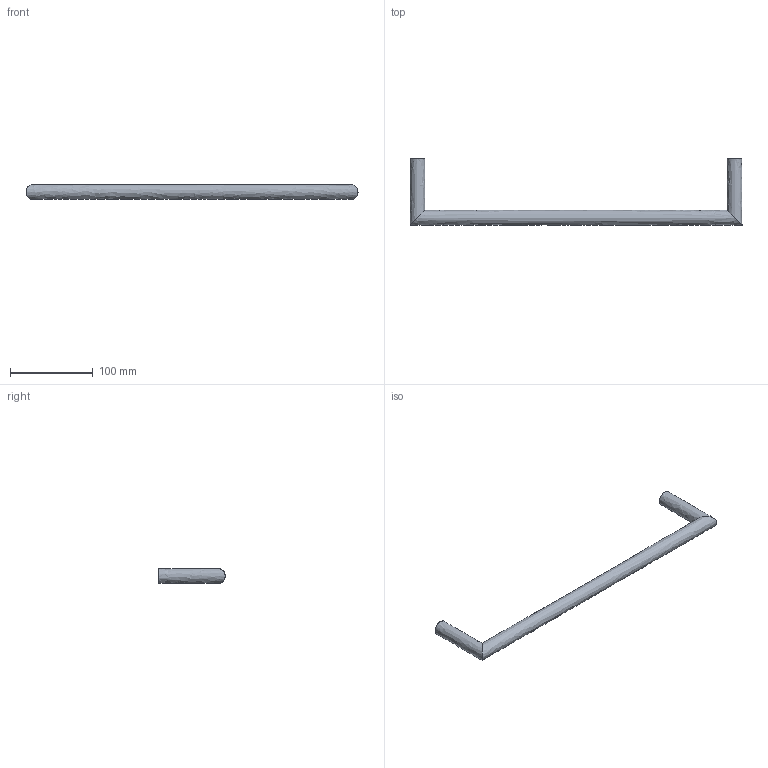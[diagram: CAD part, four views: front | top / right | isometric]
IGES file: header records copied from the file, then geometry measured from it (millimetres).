
Global section: file name: /Users/f/Desktop/I/AM211.igs; native system: Rhinoceros ( Jul 22 2010 ); preprocessor: Trout Lake IGES 012 Jul 22 2010; date: 100723.143809; units: millimetre
Bounding box: 400 x 80 x 18 mm (x, y, z)
Surface area: 30148.4 mm2 (no closed solid volume)
Topology: 0 solids, 0 shells, 5 faces, 179 edges, 178 vertices
Faces by surface type: bspline 5
